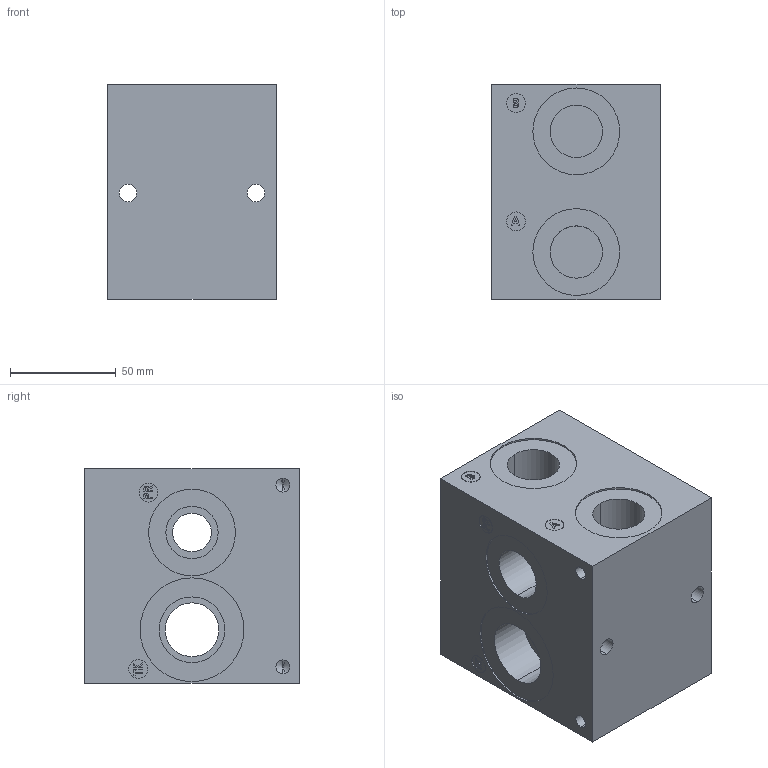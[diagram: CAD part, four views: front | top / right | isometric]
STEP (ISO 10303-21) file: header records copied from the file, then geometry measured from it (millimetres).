
FILE_DESCRIPTION (( 'STEP AP203' ), '1' );
FILE_NAME ('BMR-AHP03S2-01-1_Z.STEP', '2015-01-06T15:21:44', ( '' ), ( '' ), 'SwSTEP 2.0', 'SolidWorks 2014', '' );
FILE_SCHEMA (( 'CONFIG_CONTROL_DESIGN' ));
Length unit declared in the file: inch
Products named in the file (1): BMR-AHP03S2-01-1_Z
Bounding box: 79.5 x 101.6 x 101.6 mm (x, y, z)
Volume: 699742.9 mm3; surface area: 75450.1 mm2
Topology: 1 solids, 1 shells, 278 faces, 679 edges, 431 vertices
Faces by surface type: plane 141, cylinder 82, bspline 29, cone 26
Entity records: 9754 total; most frequent: CARTESIAN_POINT 3288, ORIENTED_EDGE 1306, DIRECTION 1259, EDGE_CURVE 653, VERTEX_POINT 431, LINE 431, VECTOR 431, AXIS2_PLACEMENT_3D 414
